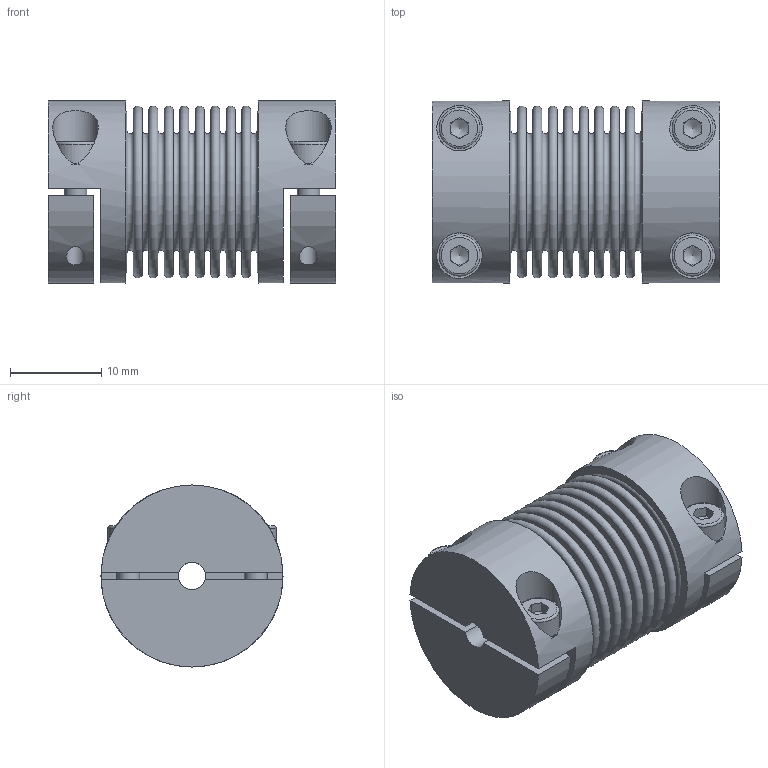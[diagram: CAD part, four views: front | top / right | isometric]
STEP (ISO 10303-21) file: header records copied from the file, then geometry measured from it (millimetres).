
FILE_DESCRIPTION( ( 'Unknown' ), '1' );
FILE_NAME( 'K:/Konstruktion/KB2H/KB2H-15-31.stp', 'Unknown', ( 'Unknown' ), ( 'Unknown' ), 'PSStep 16.0.42', 'Unknown', ' ' );
FILE_SCHEMA( ( 'AUTOMOTIVE_DESIGN { 1 0 10303 214 1 1 1 1 }' ) );
Length unit declared in the file: millimetre
Products named in the file (5): Assem1; KNH-15; Socket Head Cap Screw_DIN_DIN 912 M2.5 x 8 --- 8N_1; BL15_Standard_0
Assembly tree (9 placements, depth 2):
  Assem1
    KNH-15  x2
    KNH-15  x2
    Socket Head Cap Screw_DIN_DIN 912 M2.5 x 8 --- 8N_1  x4
    BL15_Standard_0
Bounding box: 31.6 x 20 x 20 mm (x, y, z)
Volume: 5165.1 mm3; surface area: 10819.6 mm2
Topology: 9 solids, 9 shells, 206 faces, 404 edges, 258 vertices
Faces by surface type: plane 120, torus 46, cylinder 32, cone 8
Full cylindrical faces by diameter (mm): 2.013 x4, 2.5 x4, 2.8 x4, 3 x2, 4.5 x4, 5 x4, 18 x2, 18.3 x2, 20 x2
Entity records: 4034 total; most frequent: CARTESIAN_POINT 637, DIRECTION 526, ORIENTED_EDGE 310, AXIS2_PLACEMENT_3D 243, EDGE_LOOP 228, FACE_OUTER_BOUND 176, EDGE_CURVE 155, VERTEX_POINT 152
